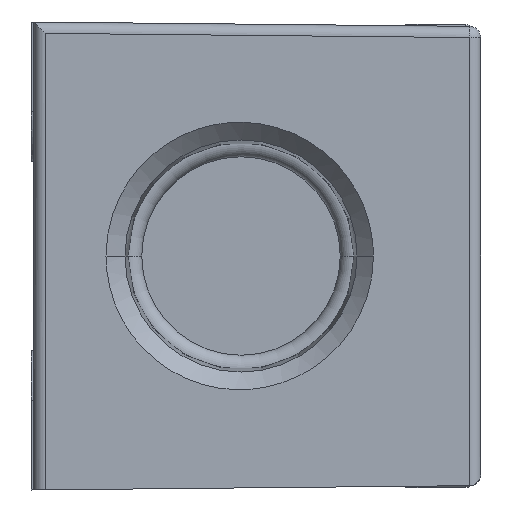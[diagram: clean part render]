
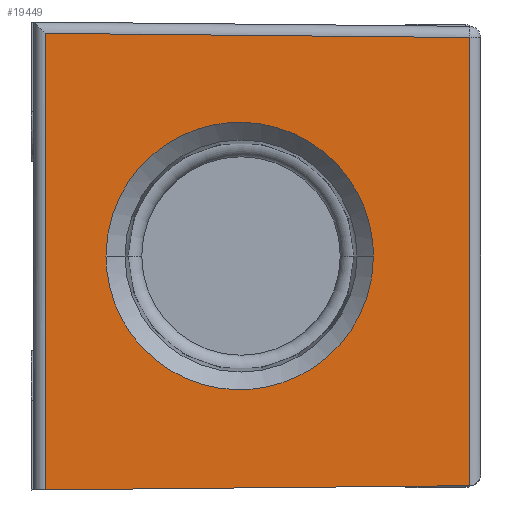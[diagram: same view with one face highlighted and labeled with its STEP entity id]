
A CAD part, front view. The second image highlights one B-rep face of the part: STEP entity #19449.
In plain terms, the highlighted planar face has unit normal (0.01, -1, 0).
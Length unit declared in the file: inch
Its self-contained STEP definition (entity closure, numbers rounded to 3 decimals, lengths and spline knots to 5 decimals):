
#4910=DIRECTION('',(1.,0.01,0.01));
#4911=VECTOR('',#4910,1.70017);
#4912=CARTESIAN_POINT('',(-0.79956,-3.68445,
-0.93695));
#4913=LINE('',#4912,#4911);
#6226=DIRECTION('',(0.,0.,1.));
#6227=VECTOR('',#6226,1.82891);
#6228=CARTESIAN_POINT('',(-0.79956,-3.68445,
-0.93695));
#6229=LINE('',#6228,#6227);
#6230=DIRECTION('',(1.,0.01,-0.01));
#6231=VECTOR('',#6230,1.70017);
#6232=CARTESIAN_POINT('',(-0.79956,-3.68445,
0.89196));
#6233=LINE('',#6232,#6231);
#6234=DIRECTION('',(0.,0.,1.));
#6235=VECTOR('',#6234,1.79538);
#6236=CARTESIAN_POINT('',(0.90044,-3.66769,
-0.92019));
#6237=LINE('',#6236,#6235);
#6355=CARTESIAN_POINT('',(0.51549,-3.67149,0.));
#6356=CARTESIAN_POINT('',(0.51549,-3.67149,
-0.06314));
#6357=CARTESIAN_POINT('',(0.49815,-3.67166,
-0.16539));
#6358=CARTESIAN_POINT('',(0.43153,-3.67231,
-0.29491));
#6359=CARTESIAN_POINT('',(0.3613,-3.67301,
-0.38156));
#6360=CARTESIAN_POINT('',(0.27464,-3.67386,
-0.4518));
#6361=CARTESIAN_POINT('',(0.17752,-3.67482,
-0.50171));
#6362=CARTESIAN_POINT('',(0.09363,-3.67565,
-0.52539));
#6363=CARTESIAN_POINT('',(0.02758,-3.6763,
-0.53434));
#6364=CARTESIAN_POINT('',(-0.02028,-3.67677,
-0.53644));
#6365=CARTESIAN_POINT('',(-0.06814,-3.67724,
-0.53434));
#6366=CARTESIAN_POINT('',(-0.1342,-3.67789,
-0.52539));
#6367=CARTESIAN_POINT('',(-0.21809,-3.67872,
-0.50171));
#6368=CARTESIAN_POINT('',(-0.3152,-3.67968,
-0.4518));
#6369=CARTESIAN_POINT('',(-0.40187,-3.68053,
-0.38156));
#6370=CARTESIAN_POINT('',(-0.4721,-3.68122,
-0.29491));
#6371=CARTESIAN_POINT('',(-0.53871,-3.68188,
-0.16539));
#6372=CARTESIAN_POINT('',(-0.55605,-3.68205,
-0.06314));
#6373=CARTESIAN_POINT('',(-0.55605,-3.68205,0.));
#6383=CARTESIAN_POINT('',(-0.55605,-3.68205,0.));
#6384=CARTESIAN_POINT('',(-0.55605,-3.68205,
0.06314));
#6385=CARTESIAN_POINT('',(-0.53871,-3.68188,
0.16539));
#6386=CARTESIAN_POINT('',(-0.4721,-3.68122,
0.29491));
#6387=CARTESIAN_POINT('',(-0.40187,-3.68053,
0.38156));
#6388=CARTESIAN_POINT('',(-0.3152,-3.67968,
0.4518));
#6389=CARTESIAN_POINT('',(-0.21809,-3.67872,
0.50171));
#6390=CARTESIAN_POINT('',(-0.1342,-3.67789,
0.52539));
#6391=CARTESIAN_POINT('',(-0.06814,-3.67724,
0.53434));
#6392=CARTESIAN_POINT('',(-0.02028,-3.67677,
0.53644));
#6393=CARTESIAN_POINT('',(0.02758,-3.6763,
0.53434));
#6394=CARTESIAN_POINT('',(0.09363,-3.67565,
0.52539));
#6395=CARTESIAN_POINT('',(0.17752,-3.67482,
0.50171));
#6396=CARTESIAN_POINT('',(0.27464,-3.67386,
0.4518));
#6397=CARTESIAN_POINT('',(0.3613,-3.67301,
0.38156));
#6398=CARTESIAN_POINT('',(0.43153,-3.67231,
0.29491));
#6399=CARTESIAN_POINT('',(0.49815,-3.67166,
0.16539));
#6400=CARTESIAN_POINT('',(0.51549,-3.67149,
0.06314));
#6401=CARTESIAN_POINT('',(0.51549,-3.67149,0.));
#10322=CARTESIAN_POINT('',(-0.79956,-3.68445,
-0.93695));
#10323=CARTESIAN_POINT('',(-0.79956,-3.68445,
0.89196));
#10324=VERTEX_POINT('',#10322);
#10325=VERTEX_POINT('',#10323);
#10326=CARTESIAN_POINT('',(0.90044,-3.66769,
0.87519));
#10327=VERTEX_POINT('',#10326);
#10330=CARTESIAN_POINT('',(0.90044,-3.66769,
-0.92019));
#10331=VERTEX_POINT('',#10330);
#10332=VERTEX_POINT('',#6355);
#10333=VERTEX_POINT('',#6373);
#19431=CARTESIAN_POINT('',(0.05044,-3.67607,
-0.0225));
#19432=DIRECTION('',(-0.01,1.,0.));
#19433=DIRECTION('',(0.,0.,1.));
#19434=AXIS2_PLACEMENT_3D('',#19431,#19432,#19433);
#19435=PLANE('',#19434);
#19437=ORIENTED_EDGE('',*,*,#19436,.F.);
#19438=ORIENTED_EDGE('',*,*,#17785,.F.);
#19439=ORIENTED_EDGE('',*,*,#19411,.T.);
#19440=ORIENTED_EDGE('',*,*,#19422,.T.);
#19441=EDGE_LOOP('',(#19437,#19438,#19439,#19440));
#19442=FACE_OUTER_BOUND('',#19441,.F.);
#19444=ORIENTED_EDGE('',*,*,#19443,.F.);
#19446=ORIENTED_EDGE('',*,*,#19445,.F.);
#19447=EDGE_LOOP('',(#19444,#19446));
#19448=FACE_BOUND('',#19447,.F.);
#19449=ADVANCED_FACE('',(#19442,#19448),#19435,.F.);
#6374=B_SPLINE_CURVE_WITH_KNOTS('',3,(#6355,#6356,#6357,#6358,#6359,#6360,#6361,
#6362,#6363,#6364,#6365,#6366,#6367,#6368,#6369,#6370,#6371,#6372,#6373),
.UNSPECIFIED.,.F.,.F.,(4,1,1,1,1,1,1,1,1,1,1,1,1,1,1,1,4),(0.,0.125,
0.1875,0.25,0.3125,0.375,0.4375,0.46875,0.5,0.53125,0.5625,
0.625,0.6875,0.75,0.8125,0.875,1.),.UNSPECIFIED.);
#6402=B_SPLINE_CURVE_WITH_KNOTS('',3,(#6383,#6384,#6385,#6386,#6387,#6388,#6389,
#6390,#6391,#6392,#6393,#6394,#6395,#6396,#6397,#6398,#6399,#6400,#6401),
.UNSPECIFIED.,.F.,.F.,(4,1,1,1,1,1,1,1,1,1,1,1,1,1,1,1,4),(0.,0.125,
0.1875,0.25,0.3125,0.375,0.4375,0.46875,0.5,0.53125,0.5625,
0.625,0.6875,0.75,0.8125,0.875,1.),.UNSPECIFIED.);
#17785=EDGE_CURVE('',#10324,#10331,#4913,.T.);
#19411=EDGE_CURVE('',#10324,#10325,#6229,.T.);
#19422=EDGE_CURVE('',#10325,#10327,#6233,.T.);
#19436=EDGE_CURVE('',#10331,#10327,#6237,.T.);
#19443=EDGE_CURVE('',#10332,#10333,#6374,.T.);
#19445=EDGE_CURVE('',#10333,#10332,#6402,.T.);
